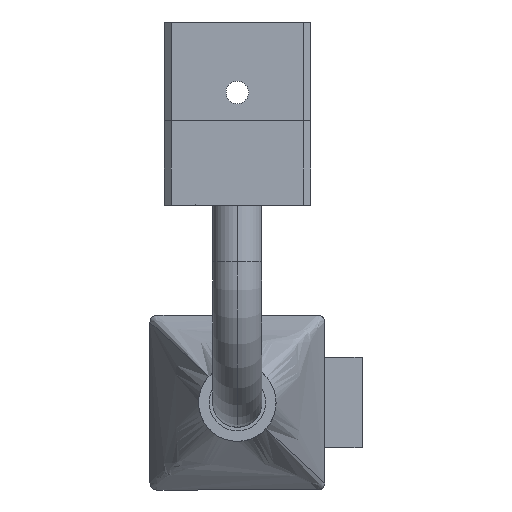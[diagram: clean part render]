
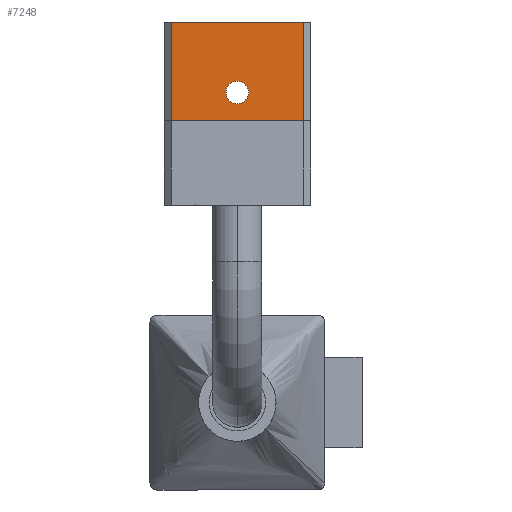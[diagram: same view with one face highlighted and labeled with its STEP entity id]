
A CAD part, left-side view. The second image highlights one B-rep face of the part: STEP entity #7248.
In plain terms, the highlighted planar face has unit normal (-1, 0, 0).
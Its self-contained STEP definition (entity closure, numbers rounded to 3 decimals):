
#63 = EDGE_LOOP ( 'NONE', ( #12151, #6288, #6696, #1793 ) ) ;
#154 = DIRECTION ( 'NONE',  ( 0., 0., -1. ) ) ;
#438 = DIRECTION ( 'NONE',  ( 0., 0., 1. ) ) ;
#564 = DIRECTION ( 'NONE',  ( 0., 0., 1. ) ) ;
#783 = CARTESIAN_POINT ( 'NONE',  ( -22., 5.2, 6. ) ) ;
#932 = CARTESIAN_POINT ( 'NONE',  ( -22., -4.7, 13. ) ) ;
#1085 = EDGE_CURVE ( 'NONE', #5158, #9933, #7940, .T. ) ;
#1410 = DIRECTION ( 'NONE',  ( 1., 0., 0. ) ) ;
#1503 = FACE_OUTER_BOUND ( 'NONE', #63, .T. ) ;
#1740 = DIRECTION ( 'NONE',  ( 0., -1., 0. ) ) ;
#1793 = ORIENTED_EDGE ( 'NONE', *, *, #4737, .T. ) ;
#1832 = VECTOR ( 'NONE', #2655, 1000. ) ;
#1890 = DIRECTION ( 'NONE',  ( 0., 0., 1. ) ) ;
#1917 = CARTESIAN_POINT ( 'NONE',  ( -22., 4.7, 13. ) ) ;
#2056 = ORIENTED_EDGE ( 'NONE', *, *, #3913, .F. ) ;
#2089 = EDGE_LOOP ( 'NONE', ( #2056, #4254 ) ) ;
#2390 = AXIS2_PLACEMENT_3D ( 'NONE', #6227, #11803, #438 ) ;
#2655 = DIRECTION ( 'NONE',  ( 0., -1., 0. ) ) ;
#3230 = PLANE ( 'NONE',  #7675 ) ;
#3873 = FACE_BOUND ( 'NONE', #2089, .T. ) ;
#3881 = EDGE_CURVE ( 'NONE', #7759, #7195, #10239, .T. ) ;
#3913 = EDGE_CURVE ( 'NONE', #7195, #7759, #6417, .T. ) ;
#4254 = ORIENTED_EDGE ( 'NONE', *, *, #3881, .F. ) ;
#4279 = AXIS2_PLACEMENT_3D ( 'NONE', #8113, #6188, #564 ) ;
#4283 = CARTESIAN_POINT ( 'NONE',  ( -22., 0., 8.8 ) ) ;
#4737 = EDGE_CURVE ( 'NONE', #8842, #5978, #11412, .T. ) ;
#5158 = VERTEX_POINT ( 'NONE', #10003 ) ;
#5173 = VECTOR ( 'NONE', #154, 1000. ) ;
#5978 = VERTEX_POINT ( 'NONE', #9144 ) ;
#6062 = CARTESIAN_POINT ( 'NONE',  ( -22., 5.2, 13. ) ) ;
#6188 = DIRECTION ( 'NONE',  ( -1., 0., 0. ) ) ;
#6227 = CARTESIAN_POINT ( 'NONE',  ( -22., 0., 8. ) ) ;
#6288 = ORIENTED_EDGE ( 'NONE', *, *, #1085, .T. ) ;
#6325 = CARTESIAN_POINT ( 'NONE',  ( -22., 5.2, 13. ) ) ;
#6417 = CIRCLE ( 'NONE', #4279, 0.8 ) ;
#6696 = ORIENTED_EDGE ( 'NONE', *, *, #6867, .T. ) ;
#6867 = EDGE_CURVE ( 'NONE', #9933, #8842, #8847, .T. ) ;
#6893 = EDGE_CURVE ( 'NONE', #5158, #5978, #9126, .T. ) ;
#7195 = VERTEX_POINT ( 'NONE', #4283 ) ;
#7248 = ADVANCED_FACE ( 'NONE', ( #3873, #1503 ), #3230, .F. ) ;
#7675 = AXIS2_PLACEMENT_3D ( 'NONE', #6062, #1410, #7942 ) ;
#7759 = VERTEX_POINT ( 'NONE', #11548 ) ;
#7919 = CARTESIAN_POINT ( 'NONE',  ( -22., -4.7, 6. ) ) ;
#7940 = LINE ( 'NONE', #1917, #5173 ) ;
#7942 = DIRECTION ( 'NONE',  ( 0., 0., -1. ) ) ;
#8113 = CARTESIAN_POINT ( 'NONE',  ( -22., 0., 8. ) ) ;
#8309 = VECTOR ( 'NONE', #1890, 1000. ) ;
#8842 = VERTEX_POINT ( 'NONE', #7919 ) ;
#8847 = LINE ( 'NONE', #783, #1832 ) ;
#9126 = LINE ( 'NONE', #6325, #11916 ) ;
#9144 = CARTESIAN_POINT ( 'NONE',  ( -22., -4.7, 13. ) ) ;
#9711 = CARTESIAN_POINT ( 'NONE',  ( -22., 4.7, 6. ) ) ;
#9933 = VERTEX_POINT ( 'NONE', #9711 ) ;
#10003 = CARTESIAN_POINT ( 'NONE',  ( -22., 4.7, 13. ) ) ;
#10239 = CIRCLE ( 'NONE', #2390, 0.8 ) ;
#11412 = LINE ( 'NONE', #932, #8309 ) ;
#11548 = CARTESIAN_POINT ( 'NONE',  ( -22., 0., 7.2 ) ) ;
#11803 = DIRECTION ( 'NONE',  ( -1., 0., 0. ) ) ;
#11916 = VECTOR ( 'NONE', #1740, 1000. ) ;
#12151 = ORIENTED_EDGE ( 'NONE', *, *, #6893, .F. ) ;
